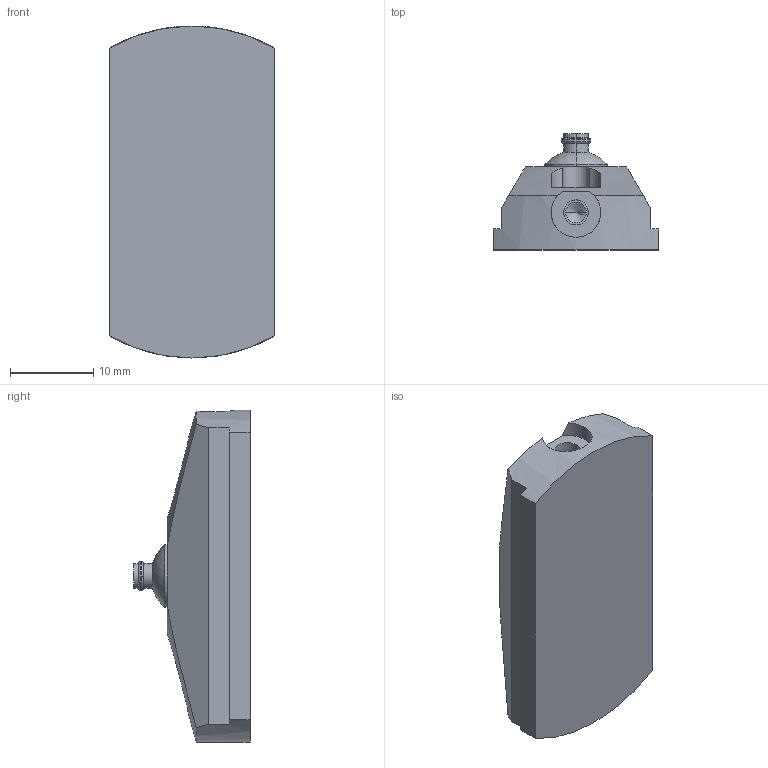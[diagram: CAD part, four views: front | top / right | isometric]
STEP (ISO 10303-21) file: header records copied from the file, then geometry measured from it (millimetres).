
FILE_DESCRIPTION (( 'STEP AP203' ), '1' );
FILE_NAME ('0003306 EZ-0075 20x40.STEP', '2022-01-19T13:21:30', ( '' ), ( '' ), 'SwSTEP 2.0', 'SolidWorks 2021', '' );
FILE_SCHEMA (( 'CONFIG_CONTROL_DESIGN' ));
Length unit declared in the file: millimetre
Products named in the file (1): 0003306 EZ-0075 20x40
Bounding box: 20 x 14 x 40 mm (x, y, z)
Volume: 5783.1 mm3; surface area: 2513.2 mm2
Topology: 2 solids, 2 shells, 71 faces, 178 edges, 114 vertices
Faces by surface type: cylinder 29, plane 27, torus 8, cone 5, sphere 2
Entity records: 2334 total; most frequent: CARTESIAN_POINT 538, DIRECTION 379, ORIENTED_EDGE 352, EDGE_CURVE 176, AXIS2_PLACEMENT_3D 157, VERTEX_POINT 114, CIRCLE 85, EDGE_LOOP 78
